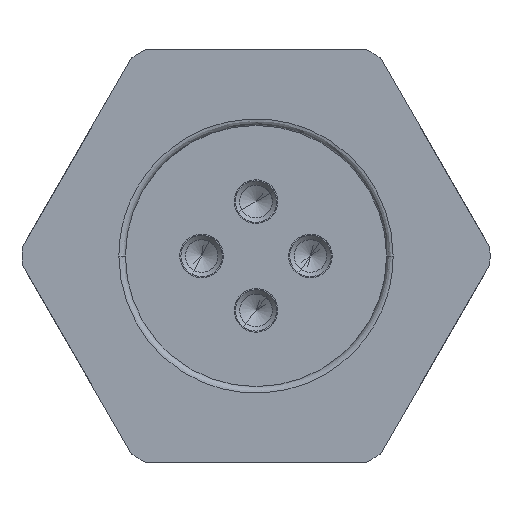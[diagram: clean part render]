
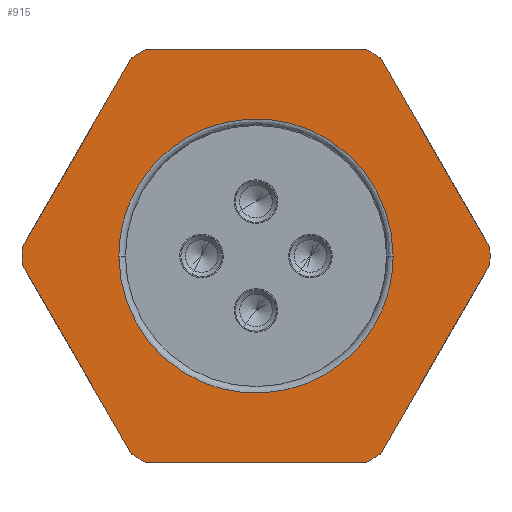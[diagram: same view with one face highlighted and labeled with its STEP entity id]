
A CAD part, front view. The second image highlights one B-rep face of the part: STEP entity #915.
In plain terms, the highlighted planar face has unit normal (0, -1, 0).
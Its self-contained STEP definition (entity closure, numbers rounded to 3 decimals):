
#301 = ORIENTED_EDGE ( 'NONE', *, *, #11326, .T. ) ;
#302 = ORIENTED_EDGE ( 'NONE', *, *, #11328, .T. ) ;
#303 = ORIENTED_EDGE ( 'NONE', *, *, #11330, .T. ) ;
#304 = ORIENTED_EDGE ( 'NONE', *, *, #11332, .T. ) ;
#305 = ORIENTED_EDGE ( 'NONE', *, *, #11334, .T. ) ;
#306 = ORIENTED_EDGE ( 'NONE', *, *, #11336, .T. ) ;
#307 = ORIENTED_EDGE ( 'NONE', *, *, #11338, .T. ) ;
#308 = ORIENTED_EDGE ( 'NONE', *, *, #11339, .T. ) ;
#309 = ORIENTED_EDGE ( 'NONE', *, *, #11341, .T. ) ;
#310 = ORIENTED_EDGE ( 'NONE', *, *, #11271, .T. ) ;
#311 = ORIENTED_EDGE ( 'NONE', *, *, #11269, .T. ) ;
#312 = ORIENTED_EDGE ( 'NONE', *, *, #11324, .T. ) ;
#885 =( BOUNDED_CURVE ( )  B_SPLINE_CURVE ( 3, ( #3161, #3162, #3167, #3168 ),
 .UNSPECIFIED., .F., .F. ) 
 B_SPLINE_CURVE_WITH_KNOTS ( ( 4, 4 ),
 ( 0.5, 1. ),
 .UNSPECIFIED. ) 
 CURVE ( )  GEOMETRIC_REPRESENTATION_ITEM ( )  RATIONAL_B_SPLINE_CURVE ( ( 1., 0.333, 0.333, 1. ) ) 
 REPRESENTATION_ITEM ( '' )  );
#915 = ADVANCED_FACE ( 'NONE', ( #2211, #2216 ), #3637, .T. ) ;
#1440 = VERTEX_POINT ( 'NONE', #7428 ) ;
#1447 = VERTEX_POINT ( 'NONE', #7435 ) ;
#1449 = VERTEX_POINT ( 'NONE', #7437 ) ;
#1450 = VERTEX_POINT ( 'NONE', #7438 ) ;
#1452 = VERTEX_POINT ( 'NONE', #7440 ) ;
#1455 = VERTEX_POINT ( 'NONE', #7443 ) ;
#1456 = VERTEX_POINT ( 'NONE', #7444 ) ;
#1464 = VERTEX_POINT ( 'NONE', #7452 ) ;
#1465 = VERTEX_POINT ( 'NONE', #7453 ) ;
#1466 = VERTEX_POINT ( 'NONE', #7454 ) ;
#1472 = VERTEX_POINT ( 'NONE', #7460 ) ;
#1473 = VERTEX_POINT ( 'NONE', #7461 ) ;
#1708 = ORIENTED_EDGE ( 'NONE', *, *, #11267, .F. ) ;
#1710 = ORIENTED_EDGE ( 'NONE', *, *, #2307, .F. ) ;
#2211 = FACE_OUTER_BOUND ( 'NONE', #11117, .T. ) ;
#2216 = FACE_BOUND ( 'NONE', #11125, .T. ) ;
#2307 = EDGE_CURVE ( 'NONE', #9821, #9797, #9197, .T. ) ;
#2562 = AXIS2_PLACEMENT_3D ( 'NONE', #3634, #3639, #3640 ) ;
#2835 = CIRCLE ( 'NONE', #6643, 10.75 ) ;
#2837 = LINE ( 'NONE', #3166, #2839 ) ;
#2839 = VECTOR ( 'NONE', #3172, 1000. ) ;
#2915 = CIRCLE ( 'NONE', #6660, 10.75 ) ;
#2927 = LINE ( 'NONE', #3299, #2930 ) ;
#2930 = VECTOR ( 'NONE', #3300, 1000. ) ;
#2931 = CIRCLE ( 'NONE', #6661, 10.75 ) ;
#2934 = LINE ( 'NONE', #3308, #2937 ) ;
#2937 = VECTOR ( 'NONE', #3309, 1000. ) ;
#2938 = CIRCLE ( 'NONE', #6662, 10.75 ) ;
#2941 = LINE ( 'NONE', #3317, #2944 ) ;
#2944 = VECTOR ( 'NONE', #3318, 1000. ) ;
#2945 = CIRCLE ( 'NONE', #6663, 10.75 ) ;
#2948 = LINE ( 'NONE', #3326, #2951 ) ;
#2951 = VECTOR ( 'NONE', #3327, 1000. ) ;
#2954 = LINE ( 'NONE', #3329, #2956 ) ;
#2956 = VECTOR ( 'NONE', #3322, 1000. ) ;
#2957 = CIRCLE ( 'NONE', #6664, 10.75 ) ;
#3161 = CARTESIAN_POINT ( 'NONE',  ( -4.734, -2.657, 1.09 ) ) ;
#3162 = CARTESIAN_POINT ( 'NONE',  ( -4.734, -2.657, -11.51 ) ) ;
#3166 = CARTESIAN_POINT ( 'NONE',  ( -9.177, -2.657, 0.697 ) ) ;
#3167 = CARTESIAN_POINT ( 'NONE',  ( 7.866, -2.657, -11.51 ) ) ;
#3168 = CARTESIAN_POINT ( 'NONE',  ( 7.866, -2.657, 1.09 ) ) ;
#3172 = DIRECTION ( 'NONE',  ( 0.5, 0., -0.866 ) ) ;
#3173 = CARTESIAN_POINT ( 'NONE',  ( 1.566, -2.657, 1.09 ) ) ;
#3174 = DIRECTION ( 'NONE',  ( 0., -1., 0. ) ) ;
#3175 = DIRECTION ( 'NONE',  ( 0., 0., -1. ) ) ;
#3299 = CARTESIAN_POINT ( 'NONE',  ( -4.146, -2.657, 10.197 ) ) ;
#3300 = DIRECTION ( 'NONE',  ( -0.5, 0., -0.866 ) ) ;
#3305 = CARTESIAN_POINT ( 'NONE',  ( 1.566, -2.657, 1.09 ) ) ;
#3306 = DIRECTION ( 'NONE',  ( 0., -1., 0. ) ) ;
#3307 = DIRECTION ( 'NONE',  ( 0., 0., -1. ) ) ;
#3308 = CARTESIAN_POINT ( 'NONE',  ( 10.291, -2.657, 10.59 ) ) ;
#3309 = DIRECTION ( 'NONE',  ( -1., 0., 0. ) ) ;
#3314 = CARTESIAN_POINT ( 'NONE',  ( 1.566, -2.657, 1.09 ) ) ;
#3315 = DIRECTION ( 'NONE',  ( 0., -1., 0. ) ) ;
#3316 = DIRECTION ( 'NONE',  ( 0., 0., -1. ) ) ;
#3317 = CARTESIAN_POINT ( 'NONE',  ( 12.309, -2.657, 1.483 ) ) ;
#3318 = DIRECTION ( 'NONE',  ( -0.5, 0., 0.866 ) ) ;
#3322 = DIRECTION ( 'NONE',  ( 1., 0., 0. ) ) ;
#3323 = CARTESIAN_POINT ( 'NONE',  ( 1.566, -2.657, 1.09 ) ) ;
#3324 = DIRECTION ( 'NONE',  ( 0., -1., 0. ) ) ;
#3325 = DIRECTION ( 'NONE',  ( 0., 0., -1. ) ) ;
#3326 = CARTESIAN_POINT ( 'NONE',  ( 7.278, -2.657, -8.017 ) ) ;
#3327 = DIRECTION ( 'NONE',  ( 0.5, 0., 0.866 ) ) ;
#3329 = CARTESIAN_POINT ( 'NONE',  ( 10.291, -2.657, -8.41 ) ) ;
#3331 = CARTESIAN_POINT ( 'NONE',  ( 1.566, -2.657, 1.09 ) ) ;
#3332 = DIRECTION ( 'NONE',  ( 0., -1., 0. ) ) ;
#3333 = DIRECTION ( 'NONE',  ( 0., 0., -1. ) ) ;
#3338 = CARTESIAN_POINT ( 'NONE',  ( 1.566, -2.657, 1.09 ) ) ;
#3339 = DIRECTION ( 'NONE',  ( 0., -1., 0. ) ) ;
#3340 = DIRECTION ( 'NONE',  ( 0., 0., -1. ) ) ;
#3634 = CARTESIAN_POINT ( 'NONE',  ( 10.291, -2.657, 1.09 ) ) ;
#3637 = PLANE ( 'NONE',  #2562 ) ;
#3639 = DIRECTION ( 'NONE',  ( 0., -1., 0. ) ) ;
#3640 = DIRECTION ( 'NONE',  ( 0., 0., -1. ) ) ;
#6643 = AXIS2_PLACEMENT_3D ( 'NONE', #3173, #3174, #3175 ) ;
#6660 = AXIS2_PLACEMENT_3D ( 'NONE', #3305, #3306, #3307 ) ;
#6661 = AXIS2_PLACEMENT_3D ( 'NONE', #3314, #3315, #3316 ) ;
#6662 = AXIS2_PLACEMENT_3D ( 'NONE', #3323, #3324, #3325 ) ;
#6663 = AXIS2_PLACEMENT_3D ( 'NONE', #3331, #3332, #3333 ) ;
#6664 = AXIS2_PLACEMENT_3D ( 'NONE', #3338, #3339, #3340 ) ;
#7428 = CARTESIAN_POINT ( 'NONE',  ( -9.177, -2.657, 0.697 ) ) ;
#7435 = CARTESIAN_POINT ( 'NONE',  ( 12.309, -2.657, 0.697 ) ) ;
#7437 = CARTESIAN_POINT ( 'NONE',  ( 6.597, -2.657, -8.41 ) ) ;
#7438 = CARTESIAN_POINT ( 'NONE',  ( -3.465, -2.657, -8.41 ) ) ;
#7440 = CARTESIAN_POINT ( 'NONE',  ( -3.465, -2.657, 10.59 ) ) ;
#7443 = CARTESIAN_POINT ( 'NONE',  ( 7.278, -2.657, -8.017 ) ) ;
#7444 = CARTESIAN_POINT ( 'NONE',  ( -4.146, -2.657, -8.017 ) ) ;
#7452 = CARTESIAN_POINT ( 'NONE',  ( -4.146, -2.657, 10.197 ) ) ;
#7453 = CARTESIAN_POINT ( 'NONE',  ( 7.278, -2.657, 10.197 ) ) ;
#7454 = CARTESIAN_POINT ( 'NONE',  ( -9.177, -2.657, 1.483 ) ) ;
#7460 = CARTESIAN_POINT ( 'NONE',  ( 6.597, -2.657, 10.59 ) ) ;
#7461 = CARTESIAN_POINT ( 'NONE',  ( 12.309, -2.657, 1.483 ) ) ;
#7799 = CARTESIAN_POINT ( 'NONE',  ( 7.866, -2.657, 13.69 ) ) ;
#7803 = CARTESIAN_POINT ( 'NONE',  ( -4.734, -2.657, 13.69 ) ) ;
#7808 = CARTESIAN_POINT ( 'NONE',  ( 7.866, -2.657, 1.09 ) ) ;
#7809 = CARTESIAN_POINT ( 'NONE',  ( -4.734, -2.657, 1.09 ) ) ;
#8260 = CARTESIAN_POINT ( 'NONE',  ( -4.734, -2.657, 1.09 ) ) ;
#8301 = CARTESIAN_POINT ( 'NONE',  ( 7.866, -2.657, 1.09 ) ) ;
#9197 =( BOUNDED_CURVE ( )  B_SPLINE_CURVE ( 3, ( #7808, #7799, #7803, #7809 ),
 .UNSPECIFIED., .F., .F. ) 
 B_SPLINE_CURVE_WITH_KNOTS ( ( 4, 4 ),
 ( 0., 0.5 ),
 .UNSPECIFIED. ) 
 CURVE ( )  GEOMETRIC_REPRESENTATION_ITEM ( )  RATIONAL_B_SPLINE_CURVE ( ( 1., 0.333, 0.333, 1. ) ) 
 REPRESENTATION_ITEM ( '' )  );
#9797 = VERTEX_POINT ( 'NONE', #8260 ) ;
#9821 = VERTEX_POINT ( 'NONE', #8301 ) ;
#11117 = EDGE_LOOP ( 'NONE', ( #312, #311, #310, #309, #308, #307, #306, #305, #304, #303, #302, #301 ) ) ;
#11125 = EDGE_LOOP ( 'NONE', ( #1710, #1708 ) ) ;
#11267 = EDGE_CURVE ( 'NONE', #9797, #9821, #885, .T. ) ;
#11269 = EDGE_CURVE ( 'NONE', #1466, #1440, #2835, .T. ) ;
#11271 = EDGE_CURVE ( 'NONE', #1440, #1456, #2837, .T. ) ;
#11324 = EDGE_CURVE ( 'NONE', #1464, #1466, #2927, .T. ) ;
#11326 = EDGE_CURVE ( 'NONE', #1452, #1464, #2915, .T. ) ;
#11328 = EDGE_CURVE ( 'NONE', #1472, #1452, #2934, .T. ) ;
#11330 = EDGE_CURVE ( 'NONE', #1465, #1472, #2931, .T. ) ;
#11332 = EDGE_CURVE ( 'NONE', #1473, #1465, #2941, .T. ) ;
#11334 = EDGE_CURVE ( 'NONE', #1447, #1473, #2938, .T. ) ;
#11336 = EDGE_CURVE ( 'NONE', #1455, #1447, #2948, .T. ) ;
#11338 = EDGE_CURVE ( 'NONE', #1449, #1455, #2945, .T. ) ;
#11339 = EDGE_CURVE ( 'NONE', #1450, #1449, #2954, .T. ) ;
#11341 = EDGE_CURVE ( 'NONE', #1456, #1450, #2957, .T. ) ;
